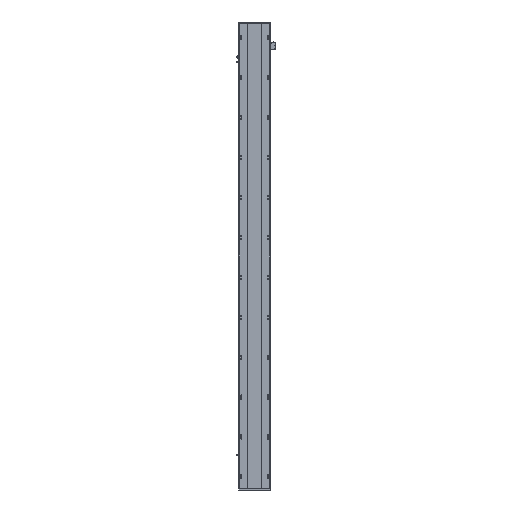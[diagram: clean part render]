
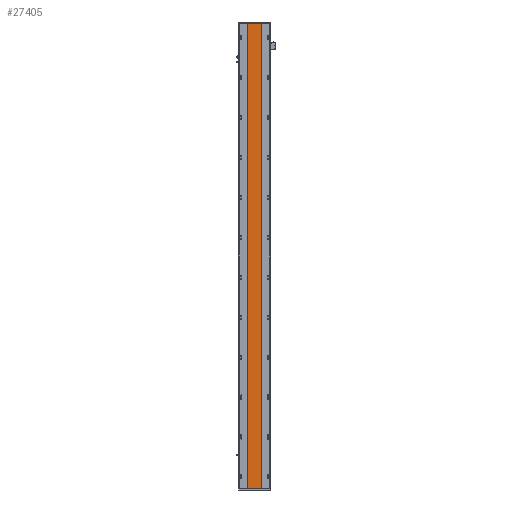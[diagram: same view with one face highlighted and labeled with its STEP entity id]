
A CAD part, front view. The second image highlights one B-rep face of the part: STEP entity #27405.
In plain terms, the highlighted planar face has unit normal (0, -1, 0).
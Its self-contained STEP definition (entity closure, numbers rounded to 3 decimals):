
#650 = ORIENTED_EDGE ( 'NONE', *, *, #6779, .T. ) ;
#1135 = VERTEX_POINT ( 'NONE', #25693 ) ;
#1454 = VERTEX_POINT ( 'NONE', #31589 ) ;
#3588 = CARTESIAN_POINT ( 'NONE',  ( 129.288, 16.9, 2512. ) ) ;
#5638 = VECTOR ( 'NONE', #28158, 1000. ) ;
#5740 = DIRECTION ( 'NONE',  ( 0., 0., -1. ) ) ;
#5974 = ORIENTED_EDGE ( 'NONE', *, *, #6087, .T. ) ;
#6087 = EDGE_CURVE ( 'NONE', #1454, #23839, #14555, .T. ) ;
#6509 = EDGE_LOOP ( 'NONE', ( #5974, #8463, #32519, #650 ) ) ;
#6779 = EDGE_CURVE ( 'NONE', #1135, #1454, #20338, .T. ) ;
#8463 = ORIENTED_EDGE ( 'NONE', *, *, #20231, .F. ) ;
#11404 = VECTOR ( 'NONE', #5740, 1000. ) ;
#12460 = VECTOR ( 'NONE', #18542, 1000. ) ;
#12901 = EDGE_CURVE ( 'NONE', #1135, #20484, #31686, .T. ) ;
#13026 = CARTESIAN_POINT ( 'NONE',  ( 205.288, 16.9, 2512. ) ) ;
#13691 = DIRECTION ( 'NONE',  ( 1., 0., 0. ) ) ;
#14555 = LINE ( 'NONE', #31125, #5638 ) ;
#18542 = DIRECTION ( 'NONE',  ( 0., 0., -1. ) ) ;
#19225 = CARTESIAN_POINT ( 'NONE',  ( 205.288, 16.9, 2512. ) ) ;
#20231 = EDGE_CURVE ( 'NONE', #20484, #23839, #36117, .T. ) ;
#20338 = LINE ( 'NONE', #25138, #12460 ) ;
#20484 = VERTEX_POINT ( 'NONE', #21524 ) ;
#21524 = CARTESIAN_POINT ( 'NONE',  ( 205.288, 16.9, 2512. ) ) ;
#22447 = DIRECTION ( 'NONE',  ( -1., 0., 0. ) ) ;
#22742 = DIRECTION ( 'NONE',  ( 0., 1., 0. ) ) ;
#23839 = VERTEX_POINT ( 'NONE', #37670 ) ;
#25138 = CARTESIAN_POINT ( 'NONE',  ( 129.288, 16.9, 2512. ) ) ;
#25693 = CARTESIAN_POINT ( 'NONE',  ( 129.288, 16.9, 2512. ) ) ;
#27405 = ADVANCED_FACE ( 'NONE', ( #29118 ), #42818, .F. ) ;
#28158 = DIRECTION ( 'NONE',  ( 1., 0., 0. ) ) ;
#29118 = FACE_OUTER_BOUND ( 'NONE', #6509, .T. ) ;
#31125 = CARTESIAN_POINT ( 'NONE',  ( 205.288, 16.9, 0. ) ) ;
#31589 = CARTESIAN_POINT ( 'NONE',  ( 129.288, 16.9, 0. ) ) ;
#31686 = LINE ( 'NONE', #3588, #39575 ) ;
#32519 = ORIENTED_EDGE ( 'NONE', *, *, #12901, .F. ) ;
#35810 = AXIS2_PLACEMENT_3D ( 'NONE', #13026, #22742, #22447 ) ;
#36117 = LINE ( 'NONE', #19225, #11404 ) ;
#37670 = CARTESIAN_POINT ( 'NONE',  ( 205.288, 16.9, 0. ) ) ;
#39575 = VECTOR ( 'NONE', #13691, 1000. ) ;
#42818 = PLANE ( 'NONE',  #35810 ) ;
